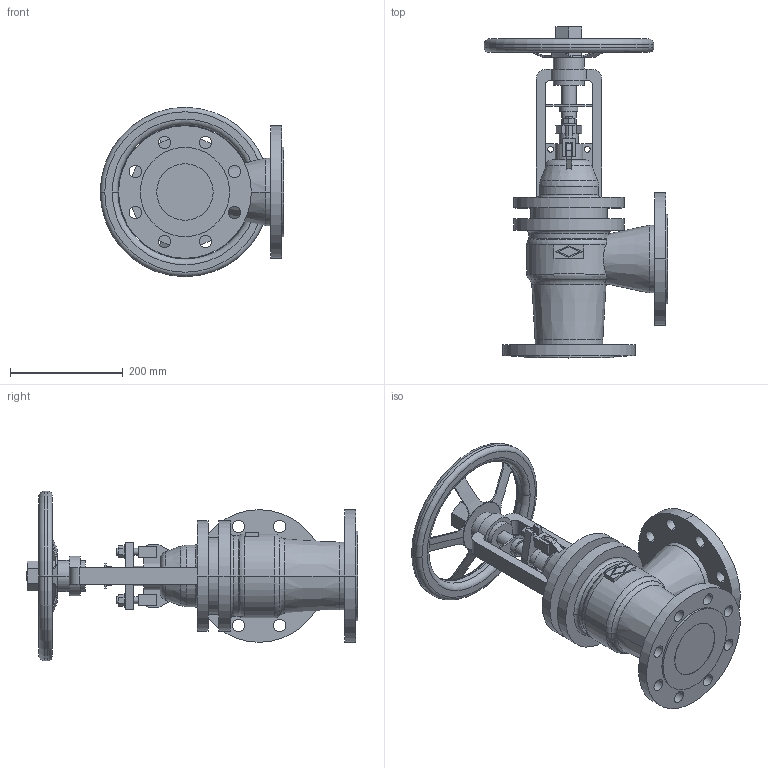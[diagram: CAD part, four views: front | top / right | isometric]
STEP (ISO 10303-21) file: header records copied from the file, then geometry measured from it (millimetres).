
FILE_DESCRIPTION(('OneSpaceDesigner STEP Export'),'2;1');
FILE_NAME('c000004442.stp','2010-05-17T 9:38:27',(''),(''),'OneSpace Designer STEP processor for AP214 (Solid Model)','OneSpace Modeling 15.50B 03-Nov-2007 (C) CoCreate Software GmbH','');
FILE_SCHEMA(('AUTOMOTIVE_DESIGN { 1 0 10303 214 1 1 1 1 }'));
Length unit declared in the file: millimetre
Products named in the file (1): 1
Bounding box: 325 x 587.7 x 300 mm (x, y, z)
Volume: 8652907.4 mm3; surface area: 647209.8 mm2
Topology: 1 solids, 1 shells, 343 faces, 927 edges, 607 vertices
Faces by surface type: cylinder 150, plane 145, torus 32, cone 16
Entity records: 13918 total; most frequent: CARTESIAN_POINT 3081, ORIENTED_EDGE 1854, DIRECTION 1446, EDGE_CURVE 927, VERTEX_POINT 607, AXIS2_PLACEMENT_3D 505, VECTOR 436, LINE 436
